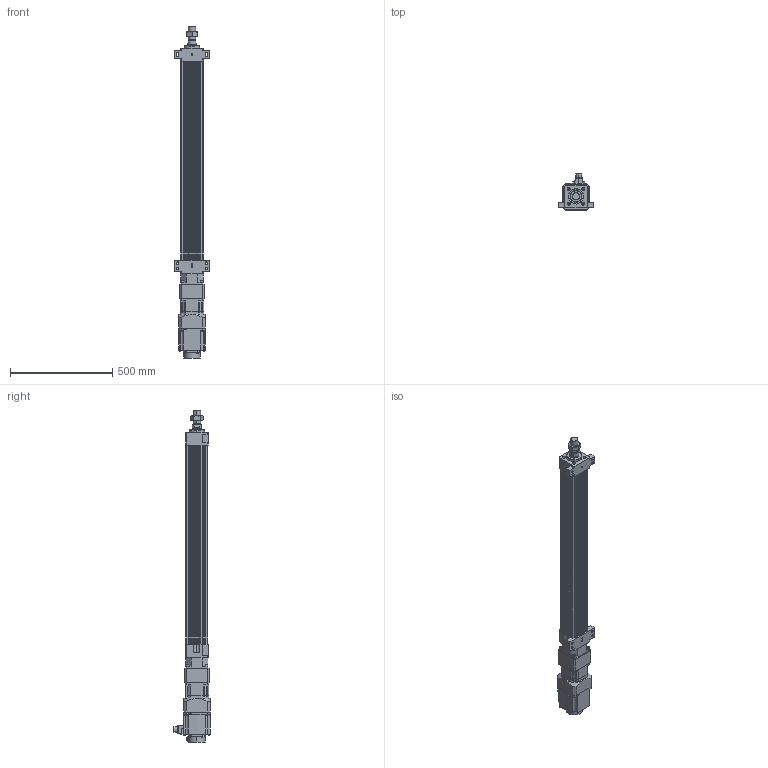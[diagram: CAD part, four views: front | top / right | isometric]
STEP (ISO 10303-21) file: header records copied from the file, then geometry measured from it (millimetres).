
FILE_DESCRIPTION (( 'STEP AP203' ), '1' );
FILE_NAME ('HES110NS(HS)-S800-W015G00-M-FFB.STEP', '2023-01-27T12:28:38', ( 'tms' ), ( '' ), 'SwSTEP 2.0', 'SolidWorks 2013', '' );
FILE_SCHEMA (( 'CONFIG_CONTROL_DESIGN' ));
Length unit declared in the file: millimetre
Products named in the file (8): AB1151; HES110NS(HS)-S800-W015G00-M-FFB; HG-SR152; HES110 ROD M ST800; M36X1.5P; AB115-003[HG-SR152]; P0401400706; HES110-S800-G120-FFB
Assembly tree (7 placements, depth 3):
  HES110NS(HS)-S800-W015G00-M-FFB
    HES110-S800-G120-FFB
    HES110 ROD M ST800
    M36X1.5P
    AB115-003[HG-SR152]
      AB1151
      P0401400706
    HG-SR152
Bounding box: 170 x 177.49 x 1621.5 mm (x, y, z)
Volume: 10390879.4 mm3; surface area: 1503113.7 mm2
Topology: 4 solids, 15 shells, 1194 faces, 3023 edges, 1968 vertices
Faces by surface type: plane 571, cylinder 531, cone 80, bspline 8, torus 4
Entity records: 37745 total; most frequent: CARTESIAN_POINT 7162, DIRECTION 6520, ORIENTED_EDGE 5998, EDGE_CURVE 3009, AXIS2_PLACEMENT_3D 2386, VERTEX_POINT 1968, LINE 1748, VECTOR 1748
